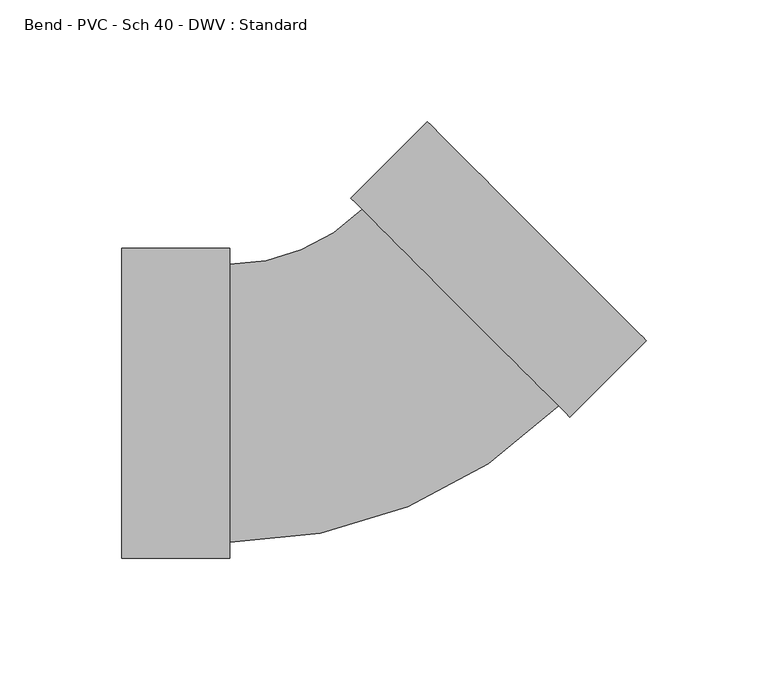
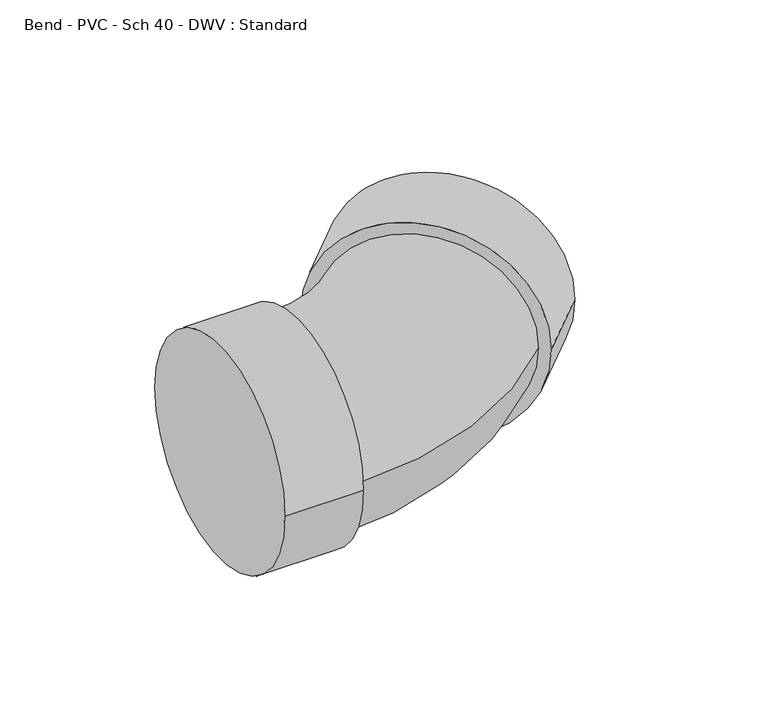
"""IFC4 building model written with IfcOpenShell, lengths in millimetres: pipe fitting geometry, Bend - PVC - Sch 40 - DWV : Standard."""

from ifc_helpers import new_model, si_unit, point, frame, origin, place, context, project, spatial, circle_curve, ellipse_curve, trimmed, source, transform, mapped, element, save
from ifc_brep_helpers import plane_surface, cylinder_surface, revolved_surface, advanced_brep


def bend_pvc_sch_40_dwv_standard_2f0b991a(model_context):
    return source(origin(), model_context, "Body", "AdvancedBrep", [
        advanced_brep(
        [(-100.0252, -63.754, 0.0), (-100.0252, 63.754, 0.0), (-55.5752, -63.754, 0.0), (-55.5752, 63.754, 0.0), (-55.5752, -57.15, 0.0), (-55.5752, 57.15, 0.0), (-1.1071079, 79.7088431, 0.0), (79.708663, -1.1199956, 0.0), (84.3780187, -5.7901063, 0.0), (-5.7764636, 84.3789538, 0.0), (115.811456, 25.6382491, 0.0), (25.6569737, 115.8073091, 0.0)],
        [
            (0, 1, circle_curve(frame((-100.0252, 0.0, 0.0), z_axis=(-1.0, 0.0, 0.0), x_axis=(0.0, 1.0, 0.0)), 63.754)),
            (1, 0, circle_curve(frame((-100.0252, 0.0, 0.0), z_axis=(-1.0, 0.0, 0.0), x_axis=(0.0, 1.0, 0.0)), 63.754)),
            (2, 3, circle_curve(frame((-55.5752, 0.0, 0.0), z_axis=(1.0, 0.0, 0.0), x_axis=(0.0, 1.0, 0.0)), 63.754)),
            (3, 2, circle_curve(frame((-55.5752, 0.0, 0.0), z_axis=(1.0, 0.0, 0.0), x_axis=(0.0, 1.0, 0.0)), 63.754)),
            (4, 5, circle_curve(frame((-55.5752, 0.0, 0.0), z_axis=(-1.0, 0.0, 0.0), x_axis=(0.0, 1.0, 0.0)), 57.15)),
            (5, 4, circle_curve(frame((-55.5752, 0.0, 0.0), z_axis=(-1.0, 0.0, 0.0), x_axis=(0.0, 1.0, 0.0)), 57.15)),
            (0, 2),
            (3, 1),
            (6, 5, circle_curve(frame((-55.5752, 134.1857425, 0.0), z_axis=(0.0, 0.0, -1.0), x_axis=(0.0, -1.0, 0.0)), 77.0357425)),
            (4, 7, circle_curve(frame((-55.5752, 134.1857425, 0.0), z_axis=(0.0, 0.0, 1.0), x_axis=(0.0, -1.0, 0.0)), 191.3357425)),
            (7, 6, circle_curve(frame((39.3007776, 39.2944238, 0.0), z_axis=(-0.7071639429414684, -0.707049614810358, 0.0), x_axis=(-0.707049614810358, 0.7071639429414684, 0.0)), 57.15)),
            (6, 7, circle_curve(frame((39.3007776, 39.2944238, 0.0), z_axis=(-0.7071639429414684, -0.707049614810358, 0.0), x_axis=(-0.707049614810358, 0.7071639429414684, 0.0)), 57.15)),
            (8, 9, circle_curve(frame((39.3007776, 39.2944238, 0.0), z_axis=(-0.7071639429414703, -0.7070496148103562, 0.0), x_axis=(-0.7070496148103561, 0.7071639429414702, 0.0)), 63.754)),
            (9, 8, circle_curve(frame((39.3007776, 39.2944238, 0.0), z_axis=(-0.7071639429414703, -0.7070496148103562, 0.0), x_axis=(-0.7070496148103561, 0.7071639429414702, 0.0)), 63.754)),
            (10, 11, circle_curve(frame((70.7342148, 70.7227791, 0.0), z_axis=(0.7071639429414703, 0.7070496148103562, 0.0), x_axis=(-0.7070496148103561, 0.7071639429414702, 0.0)), 63.754)),
            (11, 10, circle_curve(frame((70.7342148, 70.7227791, 0.0), z_axis=(0.7071639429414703, 0.7070496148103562, 0.0), x_axis=(-0.7070496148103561, 0.7071639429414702, 0.0)), 63.754)),
            (8, 10),
            (11, 9),
        ],
        [
            plane_surface(frame((-100.0252, 0.0, 0.0), z_axis=(-1.0, 0.0, 0.0), x_axis=(0.0, 0.0, 1.0))),
            plane_surface(frame((-55.5752, 0.0, 0.0), z_axis=(1.0, 0.0, 0.0), x_axis=(0.0, 0.0, 1.0))),
            cylinder_surface(frame((-100.0252, 0.0, 0.0), z_axis=(-1.0, 0.0, 0.0), x_axis=(0.0, 1.0, 0.0)), 63.754),
            revolved_surface(trimmed(ellipse_curve(frame((-55.5752, 0.0, 0.0), z_axis=(-1.0, 0.0, 0.0), x_axis=(0.0, 1.0, 0.0)), 57.15, 57.15), [point((-55.5752, -57.15, 0.0))], [point((-55.5752, 57.15, 0.0))], True, "CARTESIAN"), (-55.5752, 134.1857425, 0.0), (0.0, 0.0, 1.0)),
            revolved_surface(trimmed(ellipse_curve(frame((-55.5752, 0.0, 0.0), z_axis=(-1.0, 0.0, 0.0), x_axis=(0.0, 1.0, 0.0)), 57.15, 57.15), [point((-55.5752, 57.15, 0.0))], [point((-55.5752, -57.15, 0.0))], True, "CARTESIAN"), (-55.5752, 134.1857425, 0.0), (0.0, 0.0, 1.0)),
            plane_surface(frame((39.3007776, 39.2944238, 0.0), z_axis=(-0.7071639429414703, -0.7070496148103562, 0.0), x_axis=(0.0, 0.0, 1.0))),
            plane_surface(frame((70.7342148, 70.7227791, 0.0), z_axis=(0.7071639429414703, 0.7070496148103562, 0.0), x_axis=(0.0, 0.0, 1.0))),
            cylinder_surface(frame((39.3007776, 39.2944238, 0.0), z_axis=(-0.7071639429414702, -0.7070496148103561, 0.0), x_axis=(-0.7070496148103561, 0.7071639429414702, 0.0)), 63.754),
        ],
        [
            (0, [[1, 2]]),
            (1, [[3, 4], [5, 6]]),
            (2, [[-1, 7, -4, 8]]),
            (2, [[-2, -8, -3, -7]]),
            (3, [[9, -5, 10, 11]]),
            (4, [[-9, 12, -10, -6]]),
            (5, [[13, 14], [-11, -12]]),
            (6, [[15, 16]]),
            (7, [[-13, 17, -16, 18]]),
            (7, [[-14, -18, -15, -17]]),
        ],
    ),
    ])


if __name__ == "__main__":
    model = new_model("IFC4")
    model_context = context("Model", 3, world=origin())
    ifc_project = project(units=[si_unit("LENGTHUNIT", "METRE", prefix="MILLI")], contexts=[model_context])
    site = spatial("IfcSite", under=ifc_project)
    building = spatial("IfcBuilding", under=site)
    placement = place(None, origin())
    bend_pvc_sch_40_dwv_standard_shape = bend_pvc_sch_40_dwv_standard_2f0b991a(model_context)
    element("IfcPipeFitting", 1, ObjectType="Bend - PVC - Sch 40 - DWV : Standard", at=placement, inside=building, context=model_context, shape_type="MappedRepresentation", body=[
        mapped(bend_pvc_sch_40_dwv_standard_shape, transform((0.0, 0.0, 0.0), x_axis=(1.0, 0.0, 0.0), y_axis=(0.0, 1.0, 0.0), z_axis=(0.0, 0.0, 1.0))),
    ])
    save(model, "model.ifc")
